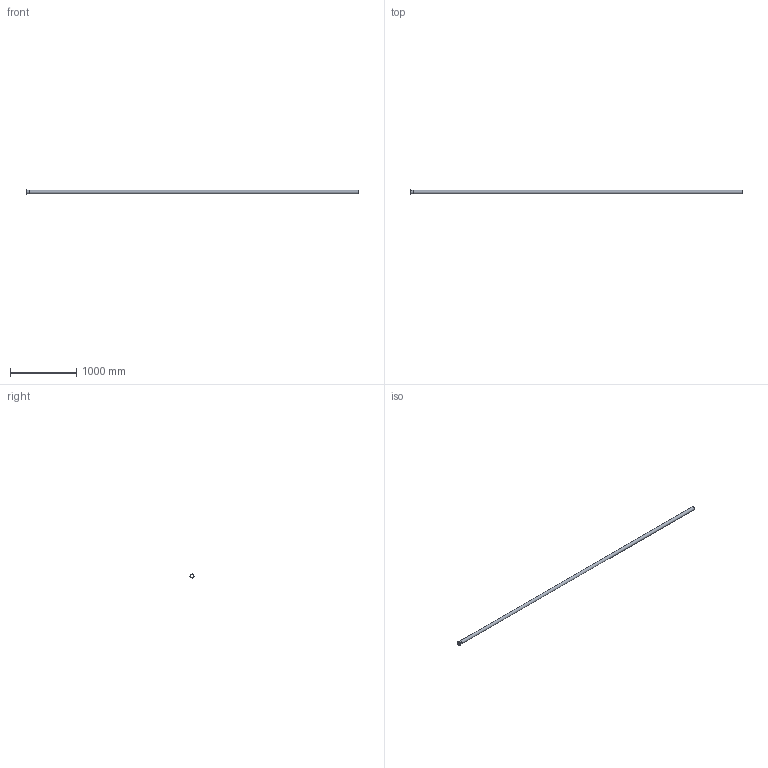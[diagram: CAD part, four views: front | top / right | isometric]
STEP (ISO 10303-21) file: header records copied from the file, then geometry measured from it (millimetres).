
FILE_DESCRIPTION((''),'2;1');
FILE_NAME('I:\WATTS\3D_CAD\3D_CAD_Models\Blucher_Drains\P_StraightPipe\WebsiteFiles\3D\STEP\P2-16.4-316.stp','2009-12-02T13:31:06',('menesek'),(''),'Autodesk Inventor 2010','Autodesk Inventor 2010','');
FILE_SCHEMA(('AUTOMOTIVE_DESIGN { 1 0 10303 214 1 1 1 1 }'));
Length unit declared in the file: inch
Products named in the file (1): P2-16.4-316
Bounding box: 5000 x 60.96 x 60.96 mm (x, y, z)
Volume: 790880.2 mm3; surface area: 1542661.4 mm2
Topology: 1 solids, 1 shells, 109 faces, 285 edges, 190 vertices
Faces by surface type: plane 59, bspline 34, cylinder 16
Full cylindrical faces by diameter (mm): 48.006 x1, 50.038 x1, 50.8 x2, 60.96 x1
Entity records: 13765 total; most frequent: CARTESIAN_POINT 11387, ORIENTED_EDGE 548, DIRECTION 356, EDGE_CURVE 274, VERTEX_POINT 186, EDGE_LOOP 128, AXIS2_PLACEMENT_3D 120, VECTOR 116
